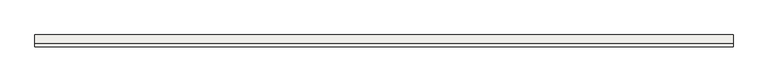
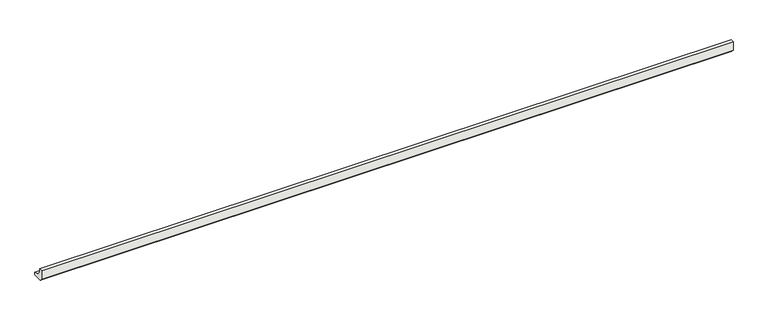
"""IFC4 building model written with IfcOpenShell, lengths in millimetres: slab geometry, ROSA GRES_188 : Pieza 188_Tresor_Java_Anti-Slip."""

from ifc_helpers import new_model, si_unit, point, frame, frame_2d, origin, place, context, project, spatial, polyline, circle_curve, trimmed, segment, composite_curve, outline, extrude, source, transform, mapped, element, save


def slab_79892642(model_context):
    return source(origin(), model_context, "Body", "SweptSolid", [
        extrude(outline(composite_curve([segment(polyline([(0.0, 8.7114978), (0.0, 40.0), (9.9734114, 40.0)]), True, "CONTINUOUS"), segment(trimmed(circle_curve(frame_2d((39.9955547, 39.9955547)), 30.0221435), [point((9.9734114, 40.0))], [point((40.0, 9.9734114))], True, "CARTESIAN"), True, "CONTINUOUS"), segment(polyline([(40.0, 9.9734114), (40.0, 0.0), (8.7114978, 0.0), (0.0, 8.7114978)]), True, "CONTINUOUS")], self_intersect=False)), frame((0.0, 0.0, 0.0), z_axis=(1.0, 0.0, 0.0), x_axis=(0.0, 1.0, 0.0)), (0.0, 0.0, 1.0), 2371.2808057),
    ])


if __name__ == "__main__":
    model = new_model("IFC4")
    model_context = context("Model", 3, world=origin())
    ifc_project = project(units=[si_unit("LENGTHUNIT", "METRE", prefix="MILLI")], contexts=[model_context])
    site = spatial("IfcSite", under=ifc_project)
    building = spatial("IfcBuilding", under=site)
    placement = place(None, origin())
    slab_shape = slab_79892642(model_context)
    element("IfcSlab", 1, ObjectType="ROSA GRES_188 : Pieza 188_Tresor_Java_Anti-Slip", at=placement, inside=building, context=model_context, shape_type="MappedRepresentation", body=[
        mapped(slab_shape, transform((0.0, 0.0, 0.0), x_axis=(1.0, 0.0, 0.0), y_axis=(0.0, 1.0, 0.0), z_axis=(0.0, 0.0, 1.0))),
    ])
    save(model, "model.ifc")
